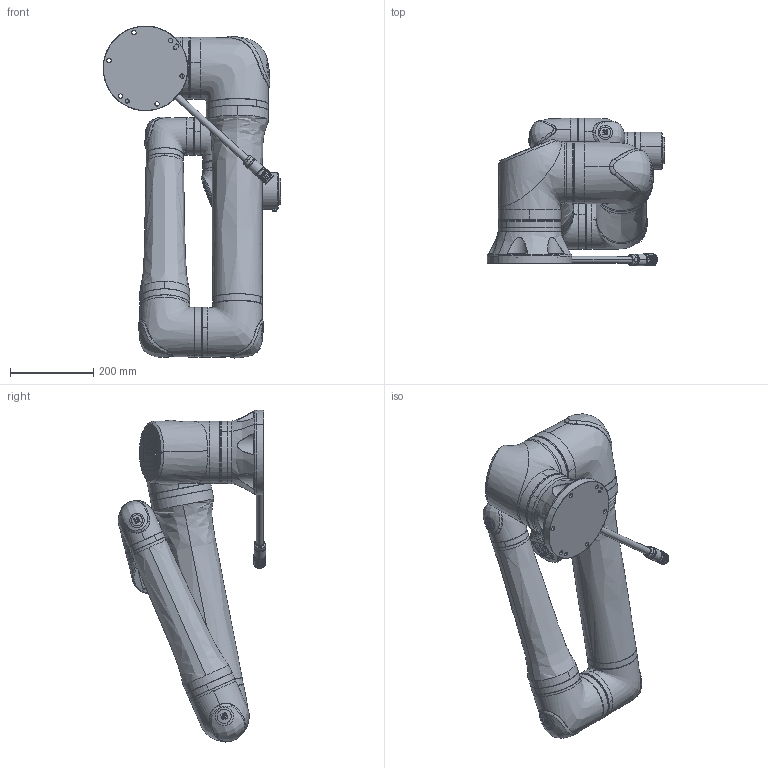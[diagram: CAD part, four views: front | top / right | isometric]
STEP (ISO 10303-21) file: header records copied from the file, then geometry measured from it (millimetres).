
FILE_DESCRIPTION (( 'STEP AP214' ), '1' );
FILE_NAME ('712-500-01_filled_C.step', '2025-10-24T09:22:41', ( '' ), ( '' ), 'SwSTEP 2.0', 'SolidWorks 2023', '' );
FILE_SCHEMA (( 'AUTOMOTIVE_DESIGN' ));
Length unit declared in the file: millimetre
Products named in the file (9): C-2008877; C-2008880; 1005866; C-2008879; 712-500-01_filled_C; C-2008882; C-2008881; C-2008876; C-2008878
Assembly tree (8 placements, depth 2):
  712-500-01_filled_C
    C-2008876
    C-2008877
    C-2008878
    C-2008879
    C-2008880
    C-2008881
    C-2008882
    1005866
Bounding box: 427.74 x 354.92 x 799.49 mm (x, y, z)
Volume: 25165065.9 mm3; surface area: 1017809.6 mm2
Topology: 8 solids, 8 shells, 2057 faces, 5221 edges, 3277 vertices
Faces by surface type: bspline 1023, cylinder 441, plane 378, cone 147, torus 68
Entity records: 124434 total; most frequent: CARTESIAN_POINT 82515, ORIENTED_EDGE 10384, DIRECTION 6286, EDGE_CURVE 5192, VERTEX_POINT 3277, AXIS2_PLACEMENT_3D 2499, EDGE_LOOP 2195, B_SPLINE_CURVE_WITH_KNOTS 2063
